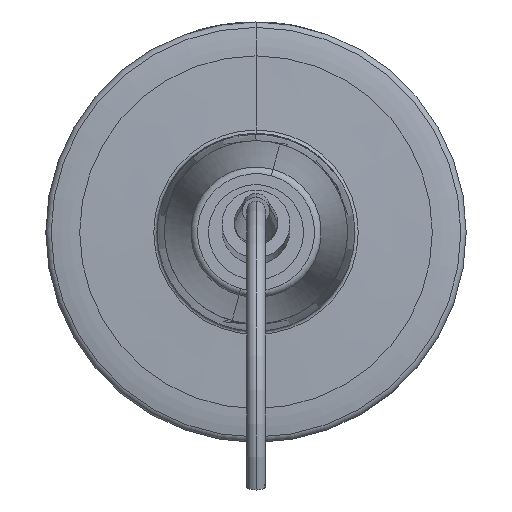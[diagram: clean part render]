
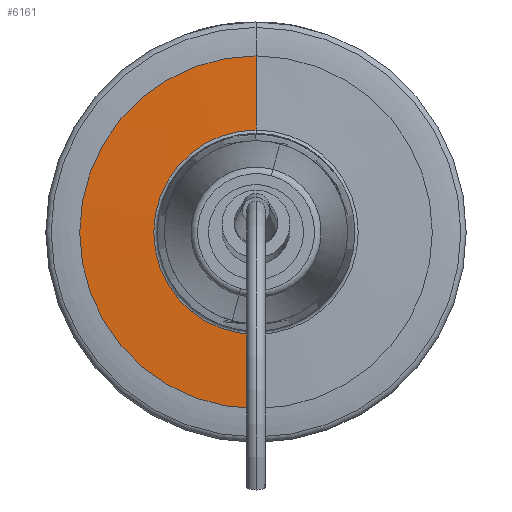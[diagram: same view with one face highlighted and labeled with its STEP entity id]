
A CAD part, left-side view. The second image highlights one B-rep face of the part: STEP entity #6161.
In plain terms, the highlighted conical face has half-angle 88 degrees and reference radius 26 mm.
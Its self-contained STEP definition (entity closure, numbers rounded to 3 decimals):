
#305 = CARTESIAN_POINT ( 'NONE',  ( -86.192, 0., -26. ) ) ;
#312 = DIRECTION ( 'NONE',  ( 0.035, 0., -0.999 ) ) ;
#1063 = CARTESIAN_POINT ( 'NONE',  ( -86.192, 0., 26. ) ) ;
#1068 = DIRECTION ( 'NONE',  ( 0.035, 0., 0.999 ) ) ;
#1098 = DIRECTION ( 'NONE',  ( 0., 0., 1. ) ) ;
#1099 = DIRECTION ( 'NONE',  ( -1., 0., 0. ) ) ;
#1100 = CARTESIAN_POINT ( 'NONE',  ( -86.574, 0., 0. ) ) ;
#1346 = CARTESIAN_POINT ( 'NONE',  ( -86.574, 0., -15.074 ) ) ;
#2775 = DIRECTION ( 'NONE',  ( 0., 0., 1. ) ) ;
#2776 = DIRECTION ( 'NONE',  ( -1., 0., 0. ) ) ;
#2777 = CARTESIAN_POINT ( 'NONE',  ( -86.192, 0., 0. ) ) ;
#3772 = FACE_OUTER_BOUND ( 'NONE', #5618, .T. ) ;
#3779 = CONICAL_SURFACE ( 'NONE', #12866, 26., 1.536 ) ;
#4149 = VERTEX_POINT ( 'NONE', #9486 ) ;
#4150 = VERTEX_POINT ( 'NONE', #9491 ) ;
#4555 = VERTEX_POINT ( 'NONE', #9427 ) ;
#5618 = EDGE_LOOP ( 'NONE', ( #9805, #9916, #10074, #9924 ) ) ;
#5982 = AXIS2_PLACEMENT_3D ( 'NONE', #1100, #1099, #1098 ) ;
#6039 = AXIS2_PLACEMENT_3D ( 'NONE', #2777, #2776, #2775 ) ;
#6161 = ADVANCED_FACE ( 'NONE', ( #3772 ), #3779, .T. ) ;
#6612 = EDGE_CURVE ( 'NONE', #4150, #4555, #15460, .T. ) ;
#6677 = EDGE_CURVE ( 'NONE', #7431, #4555, #15515, .T. ) ;
#6692 = EDGE_CURVE ( 'NONE', #4149, #7431, #15535, .T. ) ;
#6703 = EDGE_CURVE ( 'NONE', #4149, #4150, #15541, .T. ) ;
#7431 = VERTEX_POINT ( 'NONE', #1346 ) ;
#9427 = CARTESIAN_POINT ( 'NONE',  ( -86.192, 0., -26. ) ) ;
#9486 = CARTESIAN_POINT ( 'NONE',  ( -86.574, 0., 15.074 ) ) ;
#9491 = CARTESIAN_POINT ( 'NONE',  ( -86.192, 0., 26. ) ) ;
#9805 = ORIENTED_EDGE ( 'NONE', *, *, #6692, .F. ) ;
#9916 = ORIENTED_EDGE ( 'NONE', *, *, #6703, .T. ) ;
#9924 = ORIENTED_EDGE ( 'NONE', *, *, #6677, .F. ) ;
#10074 = ORIENTED_EDGE ( 'NONE', *, *, #6612, .T. ) ;
#10925 = DIRECTION ( 'NONE',  ( 0., 0., -1. ) ) ;
#10933 = DIRECTION ( 'NONE',  ( 1., 0., 0. ) ) ;
#10934 = CARTESIAN_POINT ( 'NONE',  ( -86.192, 0., 0. ) ) ;
#12866 = AXIS2_PLACEMENT_3D ( 'NONE', #10934, #10933, #10925 ) ;
#15460 = CIRCLE ( 'NONE', #6039, 26. ) ;
#15515 = LINE ( 'NONE', #305, #15522 ) ;
#15522 = VECTOR ( 'NONE', #312, 1000. ) ;
#15535 = CIRCLE ( 'NONE', #5982, 15.074 ) ;
#15541 = LINE ( 'NONE', #1063, #15548 ) ;
#15548 = VECTOR ( 'NONE', #1068, 1000. ) ;
